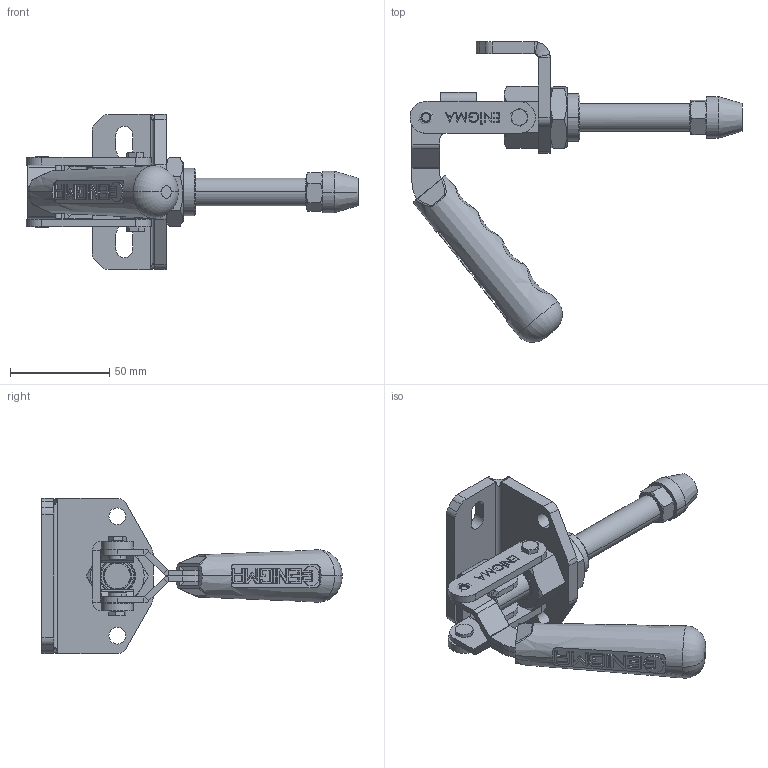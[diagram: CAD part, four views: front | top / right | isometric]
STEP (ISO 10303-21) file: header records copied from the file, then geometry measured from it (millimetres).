
FILE_DESCRIPTION (( 'STEP AP203' ), '1' );
FILE_NAME ('16114_Y.STEP', '2022-12-07T06:50:50', ( '' ), ( '' ), 'SwSTEP 2.0', 'SolidWorks 2023', '' );
FILE_SCHEMA (( 'CONFIG_CONTROL_DESIGN' ));
Length unit declared in the file: millimetre
Products named in the file (15): Aynalama16014_Hareket Kolu_Varsayılan; 1605_S6_FlansÖzel delik_Varsayılan; 16014_toz_kece_g_Varsayılan; 16114_Y; 16014 Cap 14 mil_Varsayılan; KASTAS-K52-16X20_5X3_6-4_8_Varsayılan; 16014_Hareket Kolu_Varsayılan; M10 Somun_Varsayılan; M24x1_5x8 Somun_Varsayılan; C95_T(YENİ_TUTAMAK)_Varsayılan; Baskı M10_Varsayılan; 16014_Mafsal_Varsayılan; 1604_Pim_6x10_Varsayılan; Pim_6x24_5_Varsayılan; M5x6x10_Varsayılan
Assembly tree (17 placements, depth 2):
  16114_Y
    16014 Cap 14 mil_Varsayılan
    16014_Hareket Kolu_Varsayılan
    16014_Mafsal_Varsayılan
    Aynalama16014_Hareket Kolu_Varsayılan
    1605_S6_FlansÖzel delik_Varsayılan
    M5x6x10_Varsayılan  x2
    1604_Pim_6x10_Varsayılan  x2
    Pim_6x24_5_Varsayılan
    M24x1_5x8 Somun_Varsayılan
    Baskı M10_Varsayılan
    M10 Somun_Varsayılan
    16014_toz_kece_g_Varsayılan
    KASTAS-K52-16X20_5X3_6-4_8_Varsayılan  x2
    C95_T(YENİ_TUTAMAK)_Varsayılan
Bounding box: 167 x 151.12 x 78 mm (x, y, z)
Volume: 132894.5 mm3; surface area: 68740.8 mm2
Topology: 19 solids, 19 shells, 886 faces, 2157 edges, 1353 vertices
Faces by surface type: plane 485, cylinder 208, cone 110, bspline 47, torus 34, sphere 2
Entity records: 27664 total; most frequent: CARTESIAN_POINT 7863, ORIENTED_EDGE 3782, DIRECTION 3695, EDGE_CURVE 1891, AXIS2_PLACEMENT_3D 1252, VERTEX_POINT 1192, VECTOR 1191, LINE 1191
